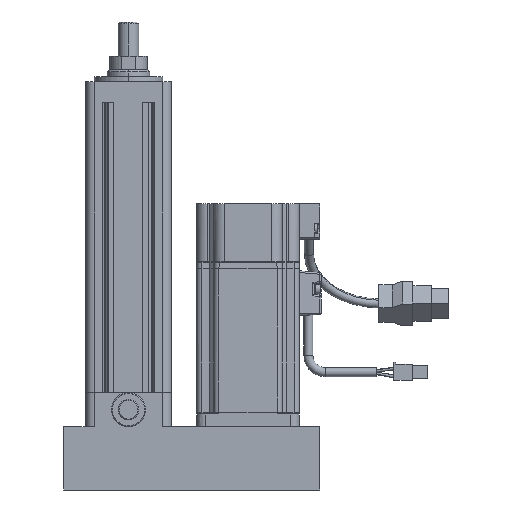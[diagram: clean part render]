
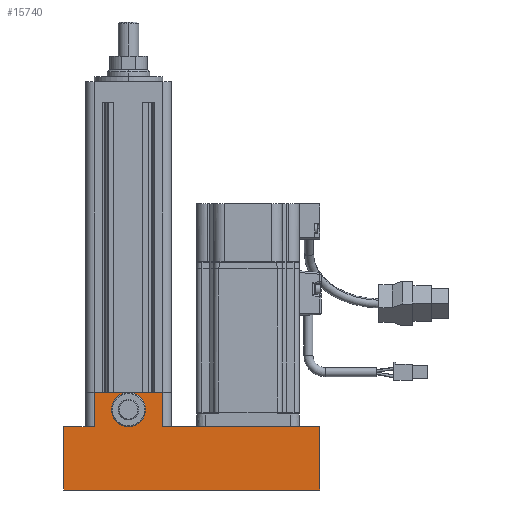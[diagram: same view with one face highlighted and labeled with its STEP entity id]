
A CAD part, left-side view. The second image highlights one B-rep face of the part: STEP entity #15740.
In plain terms, the highlighted planar face has unit normal (-1, 0, 0).
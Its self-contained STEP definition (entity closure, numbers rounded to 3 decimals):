
#215 = DIRECTION ( 'NONE',  ( 1., 0., 0. ) ) ;
#300 = DIRECTION ( 'NONE',  ( 0., 0., -1. ) ) ;
#583 = VECTOR ( 'NONE', #4139, 1000. ) ;
#596 = CARTESIAN_POINT ( 'NONE',  ( -40., 38., -20. ) ) ;
#700 = ORIENTED_EDGE ( 'NONE', *, *, #12383, .T. ) ;
#1393 = EDGE_CURVE ( 'NONE', #5935, #16955, #19406, .T. ) ;
#1503 = CARTESIAN_POINT ( 'NONE',  ( -40., -112., -57. ) ) ;
#1624 = VERTEX_POINT ( 'NONE', #10200 ) ;
#1679 = EDGE_CURVE ( 'NONE', #1624, #4322, #16309, .T. ) ;
#1842 = CARTESIAN_POINT ( 'NONE',  ( -40., -112., -57. ) ) ;
#1963 = VERTEX_POINT ( 'NONE', #7854 ) ;
#1967 = DIRECTION ( 'NONE',  ( 0., 1., 0. ) ) ;
#2004 = DIRECTION ( 'NONE',  ( 0., 0., -1. ) ) ;
#2462 = DIRECTION ( 'NONE',  ( 0., 0., 1. ) ) ;
#2748 = VECTOR ( 'NONE', #2462, 1000. ) ;
#2932 = ORIENTED_EDGE ( 'NONE', *, *, #1679, .T. ) ;
#3212 = CARTESIAN_POINT ( 'NONE',  ( -40., 0., -10. ) ) ;
#3262 = CARTESIAN_POINT ( 'NONE',  ( -40., 0., -10. ) ) ;
#3417 = LINE ( 'NONE', #14515, #19134 ) ;
#3614 = ORIENTED_EDGE ( 'NONE', *, *, #11690, .T. ) ;
#4038 = CARTESIAN_POINT ( 'NONE',  ( -40., 20., 0. ) ) ;
#4139 = DIRECTION ( 'NONE',  ( 0., 0., 1. ) ) ;
#4318 = AXIS2_PLACEMENT_3D ( 'NONE', #3212, #215, #4811 ) ;
#4322 = VERTEX_POINT ( 'NONE', #16628 ) ;
#4575 = CARTESIAN_POINT ( 'NONE',  ( -40., 38., -20. ) ) ;
#4662 = AXIS2_PLACEMENT_3D ( 'NONE', #3262, #14003, #2004 ) ;
#4723 = CARTESIAN_POINT ( 'NONE',  ( -40., 25., -20. ) ) ;
#4766 = VECTOR ( 'NONE', #9597, 1000. ) ;
#4811 = DIRECTION ( 'NONE',  ( 0., 0., -1. ) ) ;
#4910 = DIRECTION ( 'NONE',  ( 0., 0., 1. ) ) ;
#4999 = LINE ( 'NONE', #596, #4766 ) ;
#5241 = VERTEX_POINT ( 'NONE', #18649 ) ;
#5935 = VERTEX_POINT ( 'NONE', #12953 ) ;
#5958 = ORIENTED_EDGE ( 'NONE', *, *, #9087, .T. ) ;
#6458 = VECTOR ( 'NONE', #1967, 1000. ) ;
#6808 = EDGE_CURVE ( 'NONE', #11610, #1963, #18662, .T. ) ;
#6895 = EDGE_CURVE ( 'NONE', #5241, #16414, #10818, .T. ) ;
#6929 = EDGE_CURVE ( 'NONE', #12413, #16414, #17947, .T. ) ;
#7134 = CARTESIAN_POINT ( 'NONE',  ( -40., -20., -20. ) ) ;
#7854 = CARTESIAN_POINT ( 'NONE',  ( -40., -112., -20. ) ) ;
#8759 = ORIENTED_EDGE ( 'NONE', *, *, #1393, .T. ) ;
#9087 = EDGE_CURVE ( 'NONE', #4322, #13058, #15226, .T. ) ;
#9299 = VECTOR ( 'NONE', #300, 1000. ) ;
#9597 = DIRECTION ( 'NONE',  ( 0., 1., 0. ) ) ;
#9620 = CARTESIAN_POINT ( 'NONE',  ( -40., 25., 0. ) ) ;
#10008 = LINE ( 'NONE', #17118, #9299 ) ;
#10200 = CARTESIAN_POINT ( 'NONE',  ( -40., -20., -20. ) ) ;
#10356 = FACE_BOUND ( 'NONE', #11380, .T. ) ;
#10784 = PLANE ( 'NONE',  #19338 ) ;
#10818 = LINE ( 'NONE', #14520, #2748 ) ;
#11276 = DIRECTION ( 'NONE',  ( 0., 1., 0. ) ) ;
#11380 = EDGE_LOOP ( 'NONE', ( #17481, #8759 ) ) ;
#11610 = VERTEX_POINT ( 'NONE', #1503 ) ;
#11690 = EDGE_CURVE ( 'NONE', #13058, #12413, #10008, .T. ) ;
#11995 = VECTOR ( 'NONE', #4910, 1000. ) ;
#12383 = EDGE_CURVE ( 'NONE', #1963, #1624, #4999, .T. ) ;
#12413 = VERTEX_POINT ( 'NONE', #15545 ) ;
#12953 = CARTESIAN_POINT ( 'NONE',  ( -40., 0., -0.005 ) ) ;
#13054 = DIRECTION ( 'NONE',  ( 0., 1., 0. ) ) ;
#13058 = VERTEX_POINT ( 'NONE', #4038 ) ;
#13534 = DIRECTION ( 'NONE',  ( 1., 0., 0. ) ) ;
#13538 = ORIENTED_EDGE ( 'NONE', *, *, #6808, .T. ) ;
#13883 = FACE_OUTER_BOUND ( 'NONE', #18946, .T. ) ;
#14003 = DIRECTION ( 'NONE',  ( 1., 0., 0. ) ) ;
#14515 = CARTESIAN_POINT ( 'NONE',  ( -40., 38., -57. ) ) ;
#14520 = CARTESIAN_POINT ( 'NONE',  ( -40., 38., -57. ) ) ;
#14523 = ORIENTED_EDGE ( 'NONE', *, *, #16584, .F. ) ;
#14616 = CIRCLE ( 'NONE', #4662, 9.995 ) ;
#14854 = ORIENTED_EDGE ( 'NONE', *, *, #6929, .T. ) ;
#15067 = VECTOR ( 'NONE', #13054, 1000. ) ;
#15226 = LINE ( 'NONE', #9620, #6458 ) ;
#15545 = CARTESIAN_POINT ( 'NONE',  ( -40., 20., -20. ) ) ;
#15740 = ADVANCED_FACE ( 'NONE', ( #10356, #13883 ), #10784, .F. ) ;
#15847 = EDGE_CURVE ( 'NONE', #16955, #5935, #14616, .T. ) ;
#16069 = CARTESIAN_POINT ( 'NONE',  ( -40., 38., -20. ) ) ;
#16309 = LINE ( 'NONE', #7134, #583 ) ;
#16414 = VERTEX_POINT ( 'NONE', #4575 ) ;
#16584 = EDGE_CURVE ( 'NONE', #11610, #5241, #3417, .T. ) ;
#16628 = CARTESIAN_POINT ( 'NONE',  ( -40., -20., 0. ) ) ;
#16893 = DIRECTION ( 'NONE',  ( 0., 1., 0. ) ) ;
#16955 = VERTEX_POINT ( 'NONE', #18442 ) ;
#17118 = CARTESIAN_POINT ( 'NONE',  ( -40., 20., -20. ) ) ;
#17481 = ORIENTED_EDGE ( 'NONE', *, *, #15847, .T. ) ;
#17947 = LINE ( 'NONE', #16069, #15067 ) ;
#18442 = CARTESIAN_POINT ( 'NONE',  ( -40., 0., -19.995 ) ) ;
#18649 = CARTESIAN_POINT ( 'NONE',  ( -40., 38., -57. ) ) ;
#18662 = LINE ( 'NONE', #1842, #11995 ) ;
#18946 = EDGE_LOOP ( 'NONE', ( #5958, #3614, #14854, #19300, #14523, #13538, #700, #2932 ) ) ;
#19134 = VECTOR ( 'NONE', #11276, 1000. ) ;
#19300 = ORIENTED_EDGE ( 'NONE', *, *, #6895, .F. ) ;
#19338 = AXIS2_PLACEMENT_3D ( 'NONE', #4723, #13534, #16893 ) ;
#19406 = CIRCLE ( 'NONE', #4318, 9.995 ) ;
